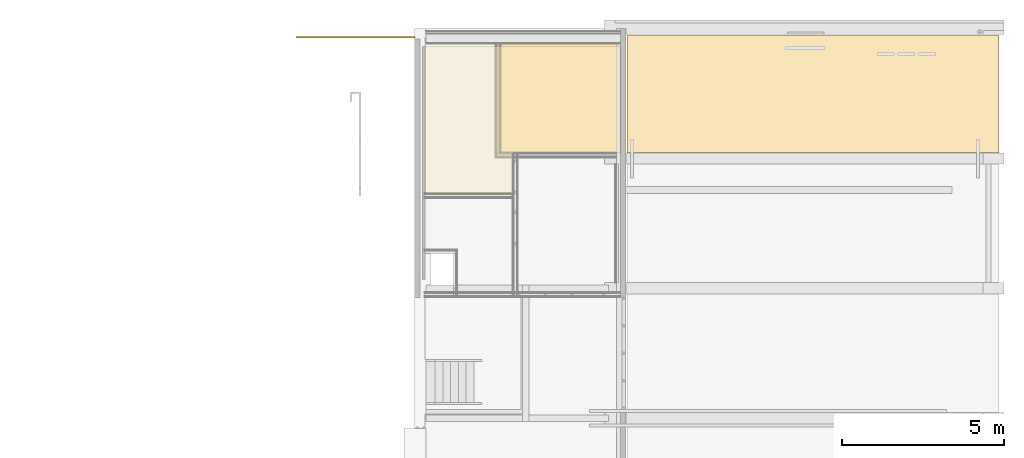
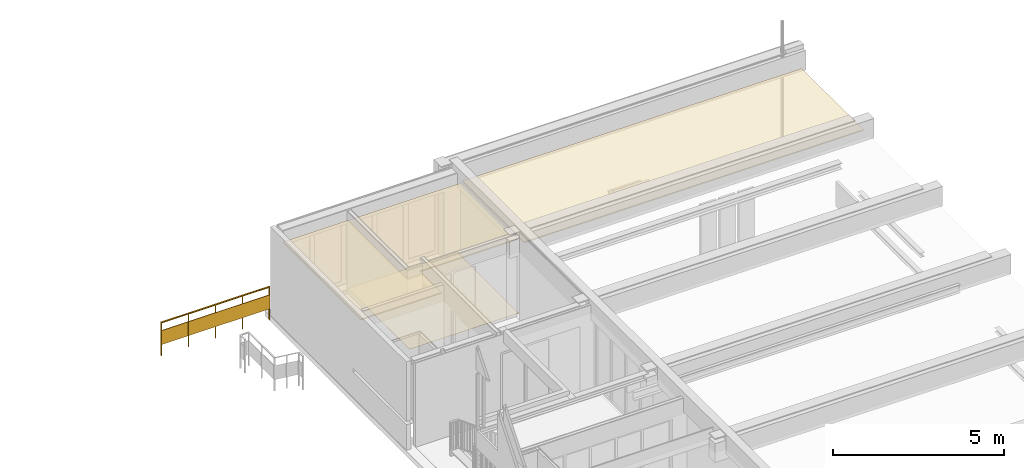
# One storey, part 12 of 13: 3 coverings, 1 railing.
"""IFC2X3 building model written with IfcOpenShell, lengths in millimetres."""

import ifcopenshell
import ifcopenshell.guid

model = None  # the IFC model being written
_history = None  # IfcOwnerHistory: only IFC2X3 demands one
_inside = {}  # id of a spatial element -> (the spatial element, [elements in it])
_under = {}  # id of a project, library or spatial element -> (it, [spatial elements below it])
_declared = {}  # id of a project -> (the project, [libraries it declares])
_typed = {}  # id of a type object -> (the type object, [elements of that type])
_made_of = {}  # id of a material, layer set ... -> (it, [elements and type objects made of it])


def new_model(schema):
    """Start an empty IFC model of exactly this schema.

    Asked for "IFC4X3", IfcOpenShell would pick the latest addendum, in which some entities
    have other attributes; the version numbers below select the first issue.
    IFC2X3 requires an IfcOwnerHistory on every rooted entity: one is made here for all.
    """
    global model, _history
    if schema == "IFC4X3":
        model = ifcopenshell.file(schema_version=(4, 3, 0, 0))
    else:
        model = ifcopenshell.file(schema=schema)
    _inside.clear()
    _under.clear()
    _declared.clear()
    _typed.clear()
    _made_of.clear()
    _history = None
    if model.schema == "IFC2X3":
        org = make("IfcOrganization", Name="unknown")
        user = make(
            "IfcPersonAndOrganization",
            ThePerson=make("IfcPerson", FamilyName="unknown"),
            TheOrganization=org,
        )
        app = make(
            "IfcApplication",
            ApplicationDeveloper=org,
            Version="unknown",
            ApplicationFullName="unknown",
            ApplicationIdentifier="unknown",
        )
        _history = make(
            "IfcOwnerHistory",
            OwningUser=user,
            OwningApplication=app,
            ChangeAction="ADDED",
            CreationDate=0,
        )
    return model


def make(cls, **values):
    """One entity of the class cls with the attributes given. An attribute that is None is left unset."""
    return model.create_entity(
        cls, **{name: value for name, value in values.items() if value is not None}
    )


def entity(cls, *values):
    """Any entity or typed value of the class cls, its attributes in the order of the schema. None: left unset."""
    e = model.create_entity(cls)
    for i, value in enumerate(values):
        if value is not None:
            e[i] = value
    return e


def rooted(cls, **values):
    """An entity with a GlobalId (a new one), such as an element, a storey or a relation."""
    return make(cls, GlobalId=ifcopenshell.guid.new(), OwnerHistory=_history, **values)


def si_unit(unit_type, name, prefix=None):
    """IfcSIUnit, for example si_unit("LENGTHUNIT", "METRE", prefix="MILLI")."""
    return make("IfcSIUnit", UnitType=unit_type, Prefix=prefix, Name=name)


def converted_unit(unit_type, name, factor, base, dimensions=None, offset=None):
    """IfcConversionBasedUnit, such as the inch: factor (a typed value) times the base unit."""
    return make(
        "IfcConversionBasedUnit"
        if offset is None
        else "IfcConversionBasedUnitWithOffset",
        ConversionOffset=offset,
        Dimensions=None
        if dimensions is None
        else entity("IfcDimensionalExponents", *dimensions),
        UnitType=unit_type,
        Name=name,
        ConversionFactor=make(
            "IfcMeasureWithUnit", ValueComponent=factor, UnitComponent=base
        ),
    )


def derived_unit(unit_type, elements):
    """IfcDerivedUnit: a product of units, each with its exponent."""
    return make(
        "IfcDerivedUnit",
        Elements=[
            make("IfcDerivedUnitElement", Unit=unit, Exponent=power)
            for unit, power in elements
        ],
        UnitType=unit_type,
    )


def money_unit(currency):
    """IfcMonetaryUnit."""
    return make("IfcMonetaryUnit", Currency=currency)


def assignment(units):
    """IfcUnitAssignment: the units of a project."""
    return None if units is None else make("IfcUnitAssignment", Units=units)


def point(xyz):
    """IfcCartesianPoint."""
    return None if xyz is None else make("IfcCartesianPoint", Coordinates=xyz)


def direction(xyz):
    """IfcDirection."""
    return None if xyz is None else make("IfcDirection", DirectionRatios=xyz)


def frame(location, z_axis=None, x_axis=None):
    """IfcAxis2Placement3D, a coordinate frame: its origin and axes. An axis left out is left unset."""
    return make(
        "IfcAxis2Placement3D",
        Location=point(location),
        Axis=direction(z_axis),
        RefDirection=direction(x_axis),
    )


def origin_with_axes():
    """The frame at (0, 0, 0) with the z axis (0, 0, 1) and the x axis (1, 0, 0) written out."""
    return frame((0.0, 0.0, 0.0), z_axis=(0.0, 0.0, 1.0), x_axis=(1.0, 0.0, 0.0))


def place(relative_to, where):
    """IfcLocalPlacement: puts the frame where relative to a parent placement (None: the world)."""
    return make(
        "IfcLocalPlacement", PlacementRelTo=relative_to, RelativePlacement=where
    )


def context(
    kind, dimensions, precision=None, world=None, true_north=None, identifier=None
):
    """IfcGeometricRepresentationContext, for example the 3D "Model" context."""
    return make(
        "IfcGeometricRepresentationContext",
        ContextIdentifier=identifier,
        ContextType=kind,
        CoordinateSpaceDimension=dimensions,
        Precision=precision,
        WorldCoordinateSystem=world,
        TrueNorth=true_north,
    )


def subcontext(parent, identifier, kind, view, scale=None):
    """IfcGeometricRepresentationSubContext, for example "Body" below "Model"."""
    return make(
        "IfcGeometricRepresentationSubContext",
        ContextIdentifier=identifier,
        ContextType=kind,
        ParentContext=parent,
        TargetScale=scale,
        TargetView=view,
    )


def project(units=None, contexts=None):
    """IfcProject with its units and contexts."""
    return rooted(
        "IfcProject",
        Name="project",
        RepresentationContexts=contexts,
        UnitsInContext=assignment(units),
    )


def spatial(cls, under=None, at=None, **own):
    """A site, building, storey or space (cls), placed at a placement, below another one or the project."""
    s = rooted(cls, ObjectPlacement=at, **own)
    if under is not None:
        _under.setdefault(under.id(), (under, []))[1].append(s)
    return s


def faces_of(points, faces, orient=None, outer=None):
    """IfcFace entities. A face is a list of loops; a loop is a list of indices into points, from 0.

    orient and outer hold one flag for each loop. By default every Orientation is true, the
    first loop of a face is its IfcFaceOuterBound and the others are IfcFaceBound.
    """
    made = []
    for i, loops in enumerate(faces):
        bounds = []
        for j, loop in enumerate(loops):
            is_outer = j == 0 if outer is None else outer[i][j]
            bounds.append(
                make(
                    "IfcFaceOuterBound" if is_outer else "IfcFaceBound",
                    Bound=make("IfcPolyLoop", Polygon=[points[k] for k in loop]),
                    Orientation=True if orient is None else orient[i][j],
                )
            )
        made.append(make("IfcFace", Bounds=bounds))
    return made


def faceted_brep(points, faces, orient=None, outer=None, voids=None):
    """IfcFacetedBrep: a solid bounded by flat faces; with voids (closed shells), ...WithVoids."""
    shared = [point(p) for p in points]
    hull = make("IfcClosedShell", CfsFaces=faces_of(shared, faces, orient, outer))
    if voids is None:
        return make("IfcFacetedBrep", Outer=hull)
    return make(
        "IfcFacetedBrepWithVoids",
        Outer=hull,
        Voids=[
            make(cls, CfsFaces=faces_of(shared, fs, o, b)) for cls, fs, o, b in voids
        ],
    )


def shape(context_of_items, identifier, shape_type, items):
    """IfcShapeRepresentation: the items that make up one representation, for example the "Body"."""
    return make(
        "IfcShapeRepresentation",
        ContextOfItems=context_of_items,
        RepresentationIdentifier=identifier,
        RepresentationType=shape_type,
        Items=items,
    )


def material(Name=None, Category=None):
    """IfcMaterial."""
    return make("IfcMaterial", Name=Name, Category=Category)


def material_list(materials):
    """IfcMaterialList."""
    return make("IfcMaterialList", Materials=materials)


def made_of(thing, what):
    """Note that an element or type object is made of a material, layer set ...; save() writes the relation."""
    if what is not None:
        _made_of.setdefault(what.id(), (what, []))[1].append(thing)
    return thing


def type_object(cls, material=None, **own):
    """A type object (cls), such as IfcWallType, which elements share."""
    return made_of(rooted(cls, **own), material)


def element(
    cls,
    number,
    at=None,
    inside=None,
    cuts=None,
    type_object=None,
    material=None,
    context=None,
    identifier="Body",
    shape_type=None,
    held_by="IfcProductDefinitionShape",
    body=None,
    shapes=None,
    **own,
):
    """One element of the class cls, such as IfcWall. Its Tag is "e" and its number.

    at: its placement. inside: the storey or other place that contains it. cuts: it is an
    opening in that element (IfcRelVoidsElement). A single representation is given by context,
    identifier, shape_type and body (its items); several are given by shapes. held_by: the class
    of the entity that holds the representations. save() writes the other relations.
    """
    e = rooted(cls, Tag="e%d" % number, ObjectPlacement=at, **own)
    if body is not None:
        shapes = [shape(context, identifier, shape_type, body)]
    if shapes is not None:
        e.Representation = make(held_by, Representations=shapes)
    if inside is not None:
        _inside.setdefault(inside.id(), (inside, []))[1].append(e)
    if cuts is not None:
        rooted(
            "IfcRelVoidsElement", RelatingBuildingElement=cuts, RelatedOpeningElement=e
        )
    if type_object is not None:
        _typed.setdefault(type_object.id(), (type_object, []))[1].append(e)
    return made_of(e, material)


def aggregate(whole, parts):
    """IfcRelAggregates: a whole, such as a stair, and the parts it consists of."""
    return rooted("IfcRelAggregates", RelatingObject=whole, RelatedObjects=parts)


def save(model, path):
    """Write the relations noted so far, then the file.

    IfcRelAggregates (storeys below a building ...), IfcRelContainedInSpatialStructure (elements
    in a storey), IfcRelDefinesByType, IfcRelAssociatesMaterial and IfcRelDeclares: one each for
    every whole, place, type object, material and project.
    """
    for whole, parts in _under.values():
        aggregate(whole, parts)
    for where, things in _inside.values():
        rooted(
            "IfcRelContainedInSpatialStructure",
            RelatedElements=things,
            RelatingStructure=where,
        )
    for kind, things in _typed.values():
        rooted("IfcRelDefinesByType", RelatedObjects=things, RelatingType=kind)
    for what, things in _made_of.values():
        rooted("IfcRelAssociatesMaterial", RelatedObjects=things, RelatingMaterial=what)
    for by, libraries in _declared.values():
        rooted("IfcRelDeclares", RelatingContext=by, RelatedDefinitions=libraries)
    model.write(path)


model = new_model("IFC2X3")

# Units and contexts
model_context = context("Model", 3, precision=0.01, world=origin_with_axes(), true_north=direction((0.0, 1.0)))
body_context = subcontext(model_context, "Body", "Model", "MODEL_VIEW")
ifc_project = project(units=[si_unit("LENGTHUNIT", "METRE", prefix="MILLI"), si_unit("AREAUNIT", "SQUARE_METRE"), si_unit("VOLUMEUNIT", "CUBIC_METRE"), converted_unit("PLANEANGLEUNIT", "DEGREE", entity("IfcPlaneAngleMeasure", 0.0174532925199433), si_unit("PLANEANGLEUNIT", "RADIAN"), dimensions=[0, 0, 0, 0, 0, 0, 0]), money_unit("EUR"), converted_unit("TIMEUNIT", "Year", entity("IfcTimeMeasure", 31557600.0), si_unit("TIMEUNIT", "SECOND"), dimensions=[0, 0, 1, 0, 0, 0, 0]), si_unit("MASSUNIT", "GRAM", prefix="KILO"), si_unit("THERMODYNAMICTEMPERATUREUNIT", "DEGREE_CELSIUS"), si_unit("LUMINOUSINTENSITYUNIT", "LUMEN"), si_unit("ENERGYUNIT", "JOULE", prefix="MEGA"), derived_unit("THERMALCONDUCTANCEUNIT", [(si_unit("POWERUNIT", "WATT"), 1), (si_unit("LENGTHUNIT", "METRE"), -1), (si_unit("THERMODYNAMICTEMPERATUREUNIT", "KELVIN"), -1)]), derived_unit("SPECIFICHEATCAPACITYUNIT", [(si_unit("ENERGYUNIT", "JOULE"), 1), (si_unit("MASSUNIT", "GRAM", prefix="KILO"), -1), (si_unit("THERMODYNAMICTEMPERATUREUNIT", "KELVIN"), -1)]), derived_unit("MASSDENSITYUNIT", [(si_unit("MASSUNIT", "GRAM", prefix="KILO"), 1), (si_unit("VOLUMEUNIT", "CUBIC_METRE"), -1)])], contexts=[model_context])

# Site, building, storey
site_placement = place(None, origin_with_axes())
site = spatial("IfcSite", under=ifc_project, at=site_placement, Name="<site naam>", CompositionType="ELEMENT")
building_placement = place(site_placement, origin_with_axes())
building = spatial("IfcBuilding", under=site, at=building_placement, Name="<Naam gebouw>", CompositionType="ELEMENT")
storey_placement = place(building_placement, frame((0.0, 0.0, 3188.0), z_axis=(0.0, 0.0, 1.0), x_axis=(1.0, 0.0, 0.0)))
storey = spatial("IfcBuildingStorey", under=building, at=storey_placement, Name="01 1e tussenverdieping", CompositionType="ELEMENT", Elevation=3188.0)

# Coverings
ifc_material_1 = material(Name="systeemplafond 600*600 kleur wit")
covering_type_1 = type_object("IfcCoveringType", Name="PA-01a 40", PredefinedType="CEILING")
covering_1_placement = place(storey_placement, frame((58157.78284470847, 19469.99999999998, 2600.0), z_axis=(0.0, 0.0, 1.0), x_axis=(1.0, 0.0, 0.0)))
element("IfcCovering", 1, at=covering_1_placement, inside=storey, type_object=covering_type_1, material=ifc_material_1, Name="45_Vloer_PA-01a", PredefinedType="CEILING", context=body_context, shape_type="Brep", body=[
    faceted_brep([(-6022.773934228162, 0.0, 40.00000000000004), (-6022.773934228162, -4557.509285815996, 40.00000000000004), (-3307.971695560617, -4557.509285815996, 40.00000000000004), (-3307.971695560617, -3294.999999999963, 40.00000000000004), (0.0, -3294.999999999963, 40.00000000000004), (0.0, 0.0, 40.00000000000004), (-6022.773934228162, 0.0, 0.0), (-6022.773934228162, -4557.509285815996, 0.0), (-3307.971695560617, -4557.509285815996, 0.0), (-3307.971695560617, -3294.999999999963, 0.0), (0.0, -3294.999999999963, 0.0), (0.0, 0.0, 0.0)], [[[0, 1, 2, 3, 4, 5]], [[6, 7, 1, 0]], [[7, 8, 2, 1]], [[3, 2, 8, 9]], [[4, 3, 9, 10]], [[5, 4, 10, 11]], [[0, 5, 11, 6]], [[9, 8, 7, 6, 11, 10]]]),
])
ifc_material_2 = material(Name="geïntegreerd balvast lamellenplafond")
covering_type_2 = type_object("IfcCoveringType", Name="PA-04 40", PredefinedType="CEILING")
covering_2_placement = place(storey_placement, frame((58367.43408431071, 16175.00007443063, 2406.999999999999), z_axis=(0.0, 0.0, 1.0), x_axis=(1.0, 0.0, 0.0)))
element("IfcCovering", 2, at=covering_2_placement, inside=storey, type_object=covering_type_2, material=ifc_material_2, Name="45_Vloer_PA-04", PredefinedType="CEILING", context=body_context, shape_type="Brep", body=[
    faceted_brep([(0.0, 0.0, 40.00000000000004), (11446.56585611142, 0.0, 40.00000000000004), (11446.56585611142, 3609.99985761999, 40.00000000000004), (0.0, 3609.99985761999, 40.00000000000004), (0.0, 0.0, 0.0), (11446.56585611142, 0.0, 0.0), (11446.56585611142, 3609.99985761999, 0.0), (0.0, 3609.99985761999, 0.0)], [[[0, 1, 2, 3]], [[4, 5, 1, 0]], [[5, 6, 2, 1]], [[3, 2, 6, 7]], [[0, 3, 7, 4]], [[7, 6, 5, 4]]]),
])
ifc_material_3 = material(Name="tapijttegel")
covering_type_3 = type_object("IfcCoveringType", Name="VA-05 3", PredefinedType="CEILING")
covering_3_placement = place(storey_placement, frame((54474.1849831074, 16139.00000000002, 0.0), z_axis=(0.0, 0.0, 1.0), x_axis=(1.0, 0.0, 0.0)))
element("IfcCovering", 3, at=covering_3_placement, inside=storey, type_object=covering_type_3, material=ifc_material_3, Name="43_Vloer_VA-05", PredefinedType="CEILING", context=body_context, shape_type="Brep", body=[
    faceted_brep([(0.0, 0.0, 3.000000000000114), (0.0, 0.0, 0.0), (3683.597884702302, 0.0, 0.0), (3683.597884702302, 0.0, 3.000000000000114), (0.0, 3592.004643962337, 3.000000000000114), (0.0, 3592.004643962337, 0.0), (3683.597884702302, 3592.004643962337, 0.0), (3683.597884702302, 3592.004643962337, 3.000000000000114)], [[[0, 1, 2, 3]], [[4, 5, 1, 0]], [[2, 1, 5, 6]], [[3, 2, 6, 7]], [[4, 0, 3, 7]], [[7, 6, 5, 4]]]),
])

# Railing
ifc_material_4 = material(Name="staal balustrade")
ifc_material_5 = material(Name="hout AFW")
ifc_material_list = material_list([ifc_material_4, ifc_material_4, ifc_material_4, ifc_material_4, ifc_material_4, ifc_material_5, ifc_material_4, ifc_material_5, ifc_material_4, ifc_material_5, ifc_material_4, ifc_material_5])
railing_type = type_object("IfcRailingType", Name="Railing Type", PredefinedType="NOTDEFINED")
railing_placement = place(storey_placement, frame((48175.00000000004, 19685.91064063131, -0.500000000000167), z_axis=(0.0, 0.0, 1.0), x_axis=(1.0, 0.0, 0.0)))
element("IfcRailing", 4, at=railing_placement, inside=storey, type_object=railing_type, material=ifc_material_list, Name="34_Reling_", PredefinedType="NOTDEFINED", context=body_context, shape_type="Brep", body=[
    faceted_brep([(10.00623695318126, 24.49750431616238, -200.0000000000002), (10.01871148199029, 74.4975027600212, -200.0000000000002), (10.01871148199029, 74.4975027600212, 979.9999999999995), (10.00623695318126, 24.49750431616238, 979.9999999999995), (-9.99376242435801, 24.50249412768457, -200.0000000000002), (-9.981287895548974, 74.5024925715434, -200.0000000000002), (-9.981287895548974, 74.5024925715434, 979.9999999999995), (-9.99376242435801, 24.50249412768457, 979.9999999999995)], [[[0, 1, 2, 3]], [[0, 4, 5, 1]], [[1, 5, 6, 2]], [[3, 2, 6, 7]], [[4, 0, 3, 7]], [[5, 4, 7, 6]]]),
    faceted_brep([(0.0187117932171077, 74.4999976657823, 999.9999999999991), (0.0187117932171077, 74.4999976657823, 969.9999999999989), (-9.981287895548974, 74.5024925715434, 969.9999999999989), (-9.981287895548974, 74.5024925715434, 999.9999999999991), (0.006237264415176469, 24.49999922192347, 999.9999999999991), (0.006237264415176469, 24.49999922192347, 969.9999999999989), (-9.99376242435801, 24.50249412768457, 969.9999999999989), (-9.99376242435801, 24.50249412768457, 999.9999999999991)], [[[0, 1, 2, 3]], [[0, 4, 5, 1]], [[1, 5, 6, 2]], [[3, 2, 6, 7]], [[4, 0, 3, 7]], [[5, 4, 7, 6]]]),
    faceted_brep([(3660.006236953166, 23.58686368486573, -200.0000000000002), (3660.018711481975, 73.58686212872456, -200.0000000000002), (3660.018711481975, 73.58686212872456, 979.9999999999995), (3660.006236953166, 23.58686368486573, 979.9999999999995), (3640.006237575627, 23.59185349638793, -200.0000000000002), (3640.018712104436, 73.59185194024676, -200.0000000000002), (3640.018712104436, 73.59185194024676, 979.9999999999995), (3640.006237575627, 23.59185349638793, 979.9999999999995)], [[[0, 1, 2, 3]], [[0, 4, 5, 1]], [[1, 5, 6, 2]], [[3, 2, 6, 7]], [[4, 0, 3, 7]], [[5, 4, 7, 6]]]),
    faceted_brep([(3650.0062372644, 23.58935859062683, 999.9999999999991), (3650.0062372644, 23.58935859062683, 969.9999999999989), (3660.006236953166, 23.58686368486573, 969.9999999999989), (3660.006236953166, 23.58686368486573, 999.9999999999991), (3650.018711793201, 73.58935703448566, 999.9999999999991), (3650.018711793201, 73.58935703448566, 969.9999999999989), (3660.018711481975, 73.58686212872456, 969.9999999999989), (3660.018711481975, 73.58686212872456, 999.9999999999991)], [[[0, 1, 2, 3]], [[0, 4, 5, 1]], [[1, 5, 6, 2]], [[3, 2, 6, 7]], [[4, 0, 3, 7]], [[5, 4, 7, 6]]]),
    faceted_brep([(0.006237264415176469, 24.49999922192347, 1000.0), (0.006237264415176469, 24.49999922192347, 969.9999999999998), (3650.0062372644, 23.58935859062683, 969.9999999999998), (3650.0062372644, 23.58935859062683, 1000.0), (0.0187117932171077, 74.4999976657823, 1000.0), (0.0187117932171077, 74.4999976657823, 969.9999999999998), (3650.018711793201, 73.58935703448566, 969.9999999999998), (3650.018711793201, 73.58935703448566, 1000.0)], [[[0, 1, 2, 3]], [[0, 4, 5, 1]], [[1, 5, 6, 2]], [[3, 2, 6, 7]], [[4, 0, 3, 7]], [[5, 4, 7, 6]]]),
    faceted_brep([(902.5149413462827, 59.2748328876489, 199.9999999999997), (10.01496912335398, 59.49750322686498, 199.9999999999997), (10.01496912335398, 59.49750322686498, 699.999999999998), (902.5149413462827, 59.2748328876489, 699.999999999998), (10.00997931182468, 39.4975038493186, 199.9999999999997), (902.5099515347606, 39.27483351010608, 199.9999999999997), (10.00997931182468, 39.4975038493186, 699.999999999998), (902.5099515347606, 39.27483351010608, 699.999999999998)], [[[0, 1, 2, 3]], [[4, 1, 0, 5]], [[6, 2, 1, 4]], [[3, 2, 6, 7]], [[0, 3, 7, 5]], [[6, 4, 5, 7]]]),
    faceted_brep([(917.5062371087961, 24.27109161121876, -200.0000000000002), (917.518711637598, 74.27109005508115, -200.0000000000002), (917.518711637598, 74.27109005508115, 999.9999999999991), (917.5062371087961, 24.27109161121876, 999.9999999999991), (907.5062374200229, 24.27358651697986, -200.0000000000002), (907.5187119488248, 74.27358496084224, -200.0000000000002), (907.5187119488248, 74.27358496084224, 999.9999999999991), (907.5062374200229, 24.27358651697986, 999.9999999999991)], [[[0, 1, 2, 3]], [[0, 4, 5, 1]], [[1, 5, 6, 2]], [[3, 2, 6, 7]], [[4, 0, 3, 7]], [[5, 4, 7, 6]]]),
    faceted_brep([(1815.014941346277, 59.04717272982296, 199.9999999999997), (922.5149691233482, 59.26984306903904, 199.9999999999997), (922.5149691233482, 59.26984306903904, 699.999999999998), (1815.014941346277, 59.04717272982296, 699.999999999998), (922.509979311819, 39.26984369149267, 199.9999999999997), (1815.009951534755, 39.04717335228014, 199.9999999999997), (922.509979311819, 39.26984369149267, 699.999999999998), (1815.009951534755, 39.04717335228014, 699.999999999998)], [[[0, 1, 2, 3]], [[4, 1, 0, 5]], [[6, 2, 1, 4]], [[3, 2, 6, 7]], [[0, 3, 7, 5]], [[6, 4, 5, 7]]]),
    faceted_brep([(1830.006237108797, 24.04343145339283, -200.0000000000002), (1830.018711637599, 74.04342989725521, -200.0000000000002), (1830.018711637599, 74.04342989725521, 999.9999999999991), (1830.006237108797, 24.04343145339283, 999.9999999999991), (1820.006237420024, 24.04592635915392, -200.0000000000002), (1820.018711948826, 74.0459248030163, -200.0000000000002), (1820.018711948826, 74.0459248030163, 999.9999999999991), (1820.006237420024, 24.04592635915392, 999.9999999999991)], [[[0, 1, 2, 3]], [[0, 4, 5, 1]], [[1, 5, 6, 2]], [[3, 2, 6, 7]], [[4, 0, 3, 7]], [[5, 4, 7, 6]]]),
    faceted_brep([(2727.514941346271, 58.81951257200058, 199.9999999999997), (1835.014969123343, 59.04218291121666, 199.9999999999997), (1835.014969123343, 59.04218291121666, 699.999999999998), (2727.514941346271, 58.81951257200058, 699.999999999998), (1835.009979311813, 39.04218353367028, 199.9999999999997), (2727.509951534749, 38.81951319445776, 199.9999999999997), (1835.009979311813, 39.04218353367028, 699.999999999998), (2727.509951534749, 38.81951319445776, 699.999999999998)], [[[0, 1, 2, 3]], [[4, 1, 0, 5]], [[6, 2, 1, 4]], [[3, 2, 6, 7]], [[0, 3, 7, 5]], [[6, 4, 5, 7]]]),
    faceted_brep([(2742.506237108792, 23.81577129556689, -200.0000000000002), (2742.518711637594, 73.81576973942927, -200.0000000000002), (2742.518711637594, 73.81576973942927, 999.9999999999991), (2742.506237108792, 23.81577129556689, 999.9999999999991), (2732.506237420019, 23.81826620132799, -200.0000000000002), (2732.518711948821, 73.81826464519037, -200.0000000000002), (2732.518711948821, 73.81826464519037, 999.9999999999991), (2732.506237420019, 23.81826620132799, 999.9999999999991)], [[[0, 1, 2, 3]], [[0, 4, 5, 1]], [[1, 5, 6, 2]], [[3, 2, 6, 7]], [[4, 0, 3, 7]], [[5, 4, 7, 6]]]),
    faceted_brep([(3640.014941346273, 58.59185241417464, 199.9999999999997), (2747.514969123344, 58.81452275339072, 199.9999999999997), (2747.514969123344, 58.81452275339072, 699.999999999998), (3640.014941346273, 58.59185241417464, 699.999999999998), (2747.509979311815, 38.81452337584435, 199.9999999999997), (3640.009951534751, 38.59185303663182, 199.9999999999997), (2747.509979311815, 38.81452337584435, 699.999999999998), (3640.009951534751, 38.59185303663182, 699.999999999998)], [[[0, 1, 2, 3]], [[4, 1, 0, 5]], [[6, 2, 1, 4]], [[3, 2, 6, 7]], [[0, 3, 7, 5]], [[6, 4, 5, 7]]]),
])

save(model, "model.ifc")
